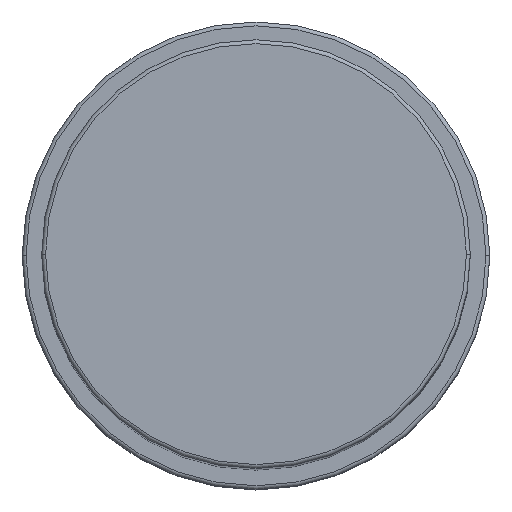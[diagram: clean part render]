
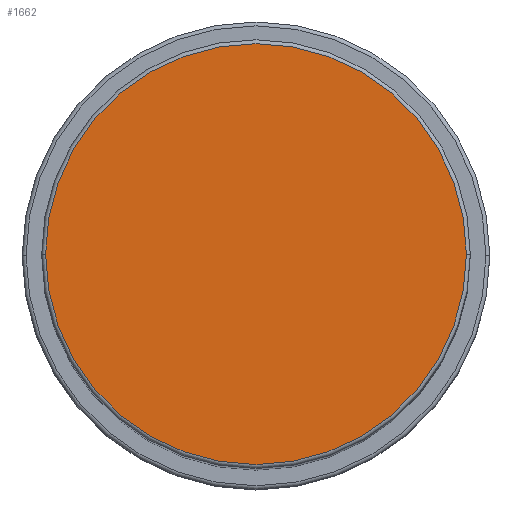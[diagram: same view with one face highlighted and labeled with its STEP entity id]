
A CAD part, top view. The second image highlights one B-rep face of the part: STEP entity #1662.
In plain terms, the highlighted planar face has unit normal (0, 0, 1).
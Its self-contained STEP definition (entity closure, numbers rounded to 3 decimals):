
#29 = DIRECTION ( 'NONE',  ( 0., 0., 1. ) ) ;
#131 = VERTEX_POINT ( 'NONE', #1565 ) ;
#140 = DIRECTION ( 'NONE',  ( 0., 0., 1. ) ) ;
#146 = DIRECTION ( 'NONE',  ( 0., 0., 1. ) ) ;
#192 = CARTESIAN_POINT ( 'NONE',  ( 0., 0., 138. ) ) ;
#290 = DIRECTION ( 'NONE',  ( 1., 0., 0. ) ) ;
#314 = EDGE_CURVE ( 'NONE', #1958, #131, #1646, .T. ) ;
#436 = DIRECTION ( 'NONE',  ( 1., 0., 0. ) ) ;
#536 = EDGE_LOOP ( 'NONE', ( #1730, #1071 ) ) ;
#603 = CARTESIAN_POINT ( 'NONE',  ( 0., 0., 138. ) ) ;
#922 = CARTESIAN_POINT ( 'NONE',  ( 0., 0., 138. ) ) ;
#943 = AXIS2_PLACEMENT_3D ( 'NONE', #603, #140, #436 ) ;
#954 = DIRECTION ( 'NONE',  ( 1., 0., 0. ) ) ;
#1071 = ORIENTED_EDGE ( 'NONE', *, *, #314, .T. ) ;
#1564 = AXIS2_PLACEMENT_3D ( 'NONE', #192, #29, #954 ) ;
#1565 = CARTESIAN_POINT ( 'NONE',  ( 27., 0., 138. ) ) ;
#1586 = CARTESIAN_POINT ( 'NONE',  ( -27., 0., 138. ) ) ;
#1646 = CIRCLE ( 'NONE', #1935, 27. ) ;
#1662 = ADVANCED_FACE ( 'NONE', ( #1767 ), #1715, .T. ) ;
#1715 = PLANE ( 'NONE',  #943 ) ;
#1729 = CIRCLE ( 'NONE', #1564, 27. ) ;
#1730 = ORIENTED_EDGE ( 'NONE', *, *, #2001, .T. ) ;
#1767 = FACE_OUTER_BOUND ( 'NONE', #536, .T. ) ;
#1935 = AXIS2_PLACEMENT_3D ( 'NONE', #922, #146, #290 ) ;
#1958 = VERTEX_POINT ( 'NONE', #1586 ) ;
#2001 = EDGE_CURVE ( 'NONE', #131, #1958, #1729, .T. ) ;
